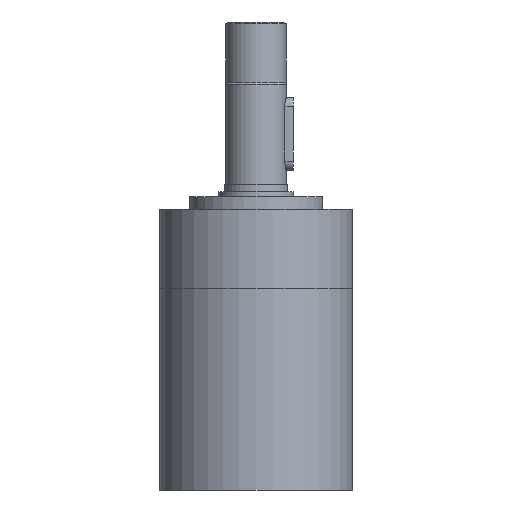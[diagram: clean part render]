
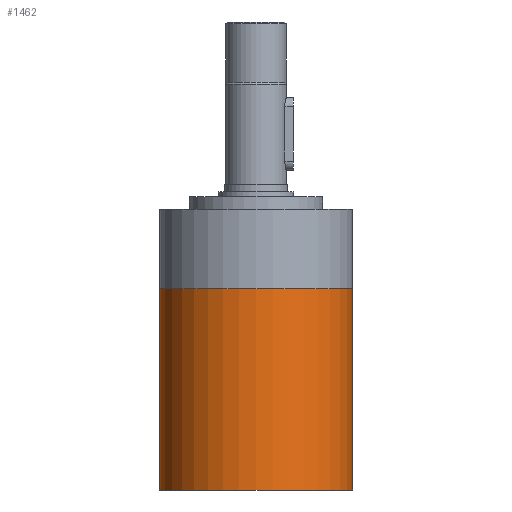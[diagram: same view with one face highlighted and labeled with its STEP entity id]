
A CAD part, left-side view. The second image highlights one B-rep face of the part: STEP entity #1462.
In plain terms, the highlighted cylindrical face has radius 16 mm (diameter 32 mm), a full revolution.
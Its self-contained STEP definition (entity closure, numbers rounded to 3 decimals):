
#1462=ADVANCED_FACE('',(#1848,#1849),#1750,.T.);
#1750=CYLINDRICAL_SURFACE('',#4601,16.);
#1848=FACE_BOUND('',#2160,.T.);
#1849=FACE_BOUND('',#2161,.T.);
#2160=EDGE_LOOP('',(#2625));
#2161=EDGE_LOOP('',(#2626));
#2625=ORIENTED_EDGE('',*,*,#3935,.F.);
#2626=ORIENTED_EDGE('',*,*,#3936,.T.);
#3565=VERTEX_POINT('',#5957);
#3566=VERTEX_POINT('',#5959);
#3935=EDGE_CURVE('',#3565,#3565,#4405,.T.);
#3936=EDGE_CURVE('',#3566,#3566,#4406,.T.);
#4405=CIRCLE('',#4599,16.);
#4406=CIRCLE('',#4600,16.);
#4599=AXIS2_PLACEMENT_3D('',#5956,#5032,#5033);
#4600=AXIS2_PLACEMENT_3D('',#5958,#5034,#5035);
#4601=AXIS2_PLACEMENT_3D('',#5960,#5036,#5037);
#5032=DIRECTION('',(0.,0.,-1.));
#5033=DIRECTION('',(1.,0.,0.));
#5034=DIRECTION('',(0.,0.,-1.));
#5035=DIRECTION('',(1.,0.,0.));
#5036=DIRECTION('',(0.,0.,1.));
#5037=DIRECTION('',(1.,0.,0.));
#5956=CARTESIAN_POINT('',(0.,0.,0.));
#5957=CARTESIAN_POINT('',(16.,0.,0.));
#5958=CARTESIAN_POINT('',(0.,0.,33.299));
#5959=CARTESIAN_POINT('',(16.,0.,33.299));
#5960=CARTESIAN_POINT('',(0.,0.,33.3));
